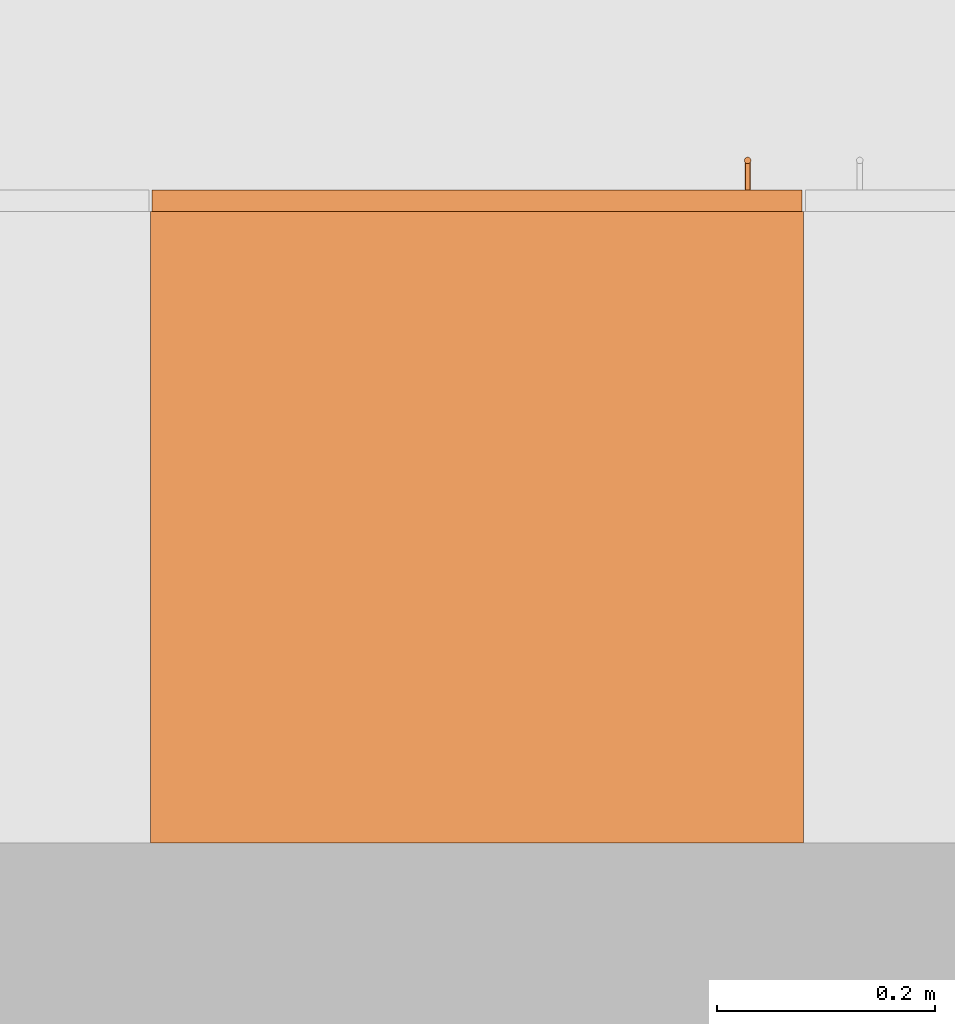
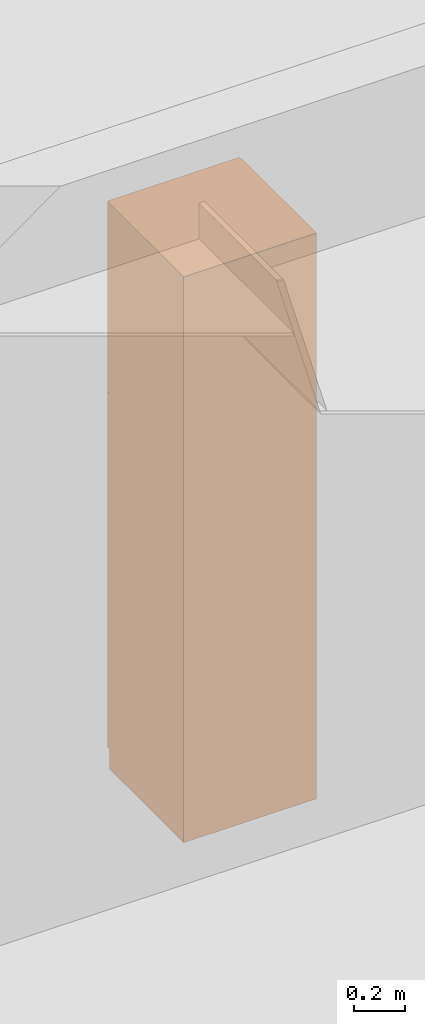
# One storey, part 97 of 167: 1 proxy.
"""IFC2X3 building model written with IfcOpenShell, lengths in millimetres."""

from ifc_helpers import new_model, entity, si_unit, converted_unit, derived_unit, money_unit, direction, frame, origin_with_axes, place, context, subcontext, project, spatial, open_shell, faceted_brep, surface_model, source, transform, mapped, type_object, type_shapes, element, save


model = new_model("IFC2X3")

# Units and contexts
model_context = context("Model", 3, precision=0.01, world=origin_with_axes(), true_north=direction((0.0, 1.0)))
plan_context = context("Plan", 3, precision=0.01, world=origin_with_axes(), true_north=direction((0.0, 1.0)))
body_context = subcontext(model_context, "Body", "Model", "MODEL_VIEW")
ifc_project = project(units=[si_unit("LENGTHUNIT", "METRE", prefix="MILLI"), si_unit("AREAUNIT", "SQUARE_METRE"), si_unit("VOLUMEUNIT", "CUBIC_METRE"), converted_unit("PLANEANGLEUNIT", "DEGREE", entity("IfcPlaneAngleMeasure", 0.0174532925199), si_unit("PLANEANGLEUNIT", "RADIAN"), dimensions=[0, 0, 0, 0, 0, 0, 0]), si_unit("SOLIDANGLEUNIT", "STERADIAN"), money_unit("EUR"), converted_unit("TIMEUNIT", "Year", entity("IfcTimeMeasure", 31556926.0), si_unit("TIMEUNIT", "SECOND"), dimensions=[0, 0, 1, 0, 0, 0, 0]), si_unit("MASSUNIT", "GRAM", prefix="KILO"), si_unit("THERMODYNAMICTEMPERATUREUNIT", "DEGREE_CELSIUS"), si_unit("LUMINOUSINTENSITYUNIT", "LUMEN"), si_unit("ENERGYUNIT", "JOULE", prefix="MEGA"), derived_unit("THERMALCONDUCTANCEUNIT", [(si_unit("POWERUNIT", "WATT"), 1), (si_unit("LENGTHUNIT", "METRE"), -1), (si_unit("THERMODYNAMICTEMPERATUREUNIT", "KELVIN"), -1)]), derived_unit("SPECIFICHEATCAPACITYUNIT", [(si_unit("ENERGYUNIT", "JOULE"), 1), (si_unit("MASSUNIT", "GRAM", prefix="KILO"), -1), (si_unit("THERMODYNAMICTEMPERATUREUNIT", "KELVIN"), -1)]), derived_unit("MASSDENSITYUNIT", [(si_unit("MASSUNIT", "GRAM", prefix="KILO"), 1), (si_unit("VOLUMEUNIT", "CUBIC_METRE"), -1)])], contexts=[model_context, plan_context])

# Site, building, storey
site_placement = place(None, origin_with_axes())
site = spatial("IfcSite", under=ifc_project, at=site_placement, Name="Site", CompositionType="ELEMENT")
building_placement = place(site_placement, origin_with_axes())
building = spatial("IfcBuilding", under=site, at=building_placement, Name="Naam gebouw", CompositionType="ELEMENT")
storey_placement = place(building_placement, origin_with_axes())
storey = spatial("IfcBuildingStorey", under=building, at=storey_placement, Name="Begane grond", CompositionType="ELEMENT", Elevation=0.0)

# Proxy
building_element_proxy_type = type_object("IfcBuildingElementProxyType", Name="Kast hoog 1D 24", PredefinedType="NOTDEFINED")
shared_shape = source(origin_with_axes(), body_context, "Body", "SurfaceModel", [
    faceted_brep([(-20.0, 20.0, 1780.0), (-20.0, 20.0, 1800.0), (-580.0, 20.0, 1800.0), (-580.0, 20.0, 1780.0), (-20.0, 580.0, 1780.0), (-20.0, 580.0, 1800.0), (-580.0, 580.0, 1800.0), (-580.0, 580.0, 1780.0)], [[[0, 1, 2, 3]], [[4, 5, 1, 0]], [[1, 5, 6, 2]], [[3, 2, 6, 7]], [[0, 3, 7, 4]], [[7, 6, 5, 4]]]),
    faceted_brep([(0.0, 20.0, 0.0), (0.0, 20.0, 90.0), (-600.0, 20.0, 90.0), (-600.0, 20.0, 0.0), (0.0, 600.0, 0.0), (0.0, 600.0, 90.0), (-600.0, 600.0, 90.0), (-600.0, 600.0, 0.0)], [[[0, 1, 2, 3]], [[4, 5, 1, 0]], [[1, 5, 6, 2]], [[3, 2, 6, 7]], [[0, 3, 7, 4]], [[7, 6, 5, 4]]]),
    faceted_brep([(0.0, 20.0, 2680.0), (0.0, 20.0, 2700.0), (-20.0, 20.0, 2700.0), (-20.0, 20.0, 2680.0), (0.0, 600.0, 2680.0), (0.0, 600.0, 2700.0), (-20.0, 600.0, 2700.0), (-580.0, 600.0, 2700.0), (-600.0, 600.0, 2700.0), (-600.0, 20.0, 2700.0), (-580.0, 20.0, 2700.0), (-580.0, 20.0, 2680.0), (-600.0, 20.0, 2680.0), (-600.0, 600.0, 2680.0), (-580.0, 600.0, 2680.0), (-20.0, 600.0, 2680.0)], [[[0, 1, 2, 3]], [[4, 5, 1, 0]], [[1, 5, 6, 7, 8, 9, 10, 2]], [[3, 2, 10, 11]], [[0, 3, 11, 12, 13, 14, 15, 4]], [[15, 6, 5, 4]], [[14, 7, 6, 15]], [[13, 8, 7, 14]], [[12, 9, 8, 13]], [[11, 10, 9, 12]]]),
    faceted_brep([(0.0, 20.0, 90.0), (0.0, 20.0, 110.0), (-20.0, 20.0, 110.0), (-20.0, 20.0, 90.0), (0.0, 600.0, 90.0), (0.0, 600.0, 110.0), (-20.0, 600.0, 110.0), (-580.0, 600.0, 110.0), (-600.0, 600.0, 110.0), (-600.0, 20.0, 110.0), (-580.0, 20.0, 110.0), (-580.0, 20.0, 90.0), (-600.0, 20.0, 90.0), (-600.0, 600.0, 90.0), (-580.0, 600.0, 90.0), (-20.0, 600.0, 90.0)], [[[0, 1, 2, 3]], [[4, 5, 1, 0]], [[1, 5, 6, 7, 8, 9, 10, 2]], [[3, 2, 10, 11]], [[0, 3, 11, 12, 13, 14, 15, 4]], [[15, 6, 5, 4]], [[14, 7, 6, 15]], [[13, 8, 7, 14]], [[12, 9, 8, 13]], [[11, 10, 9, 12]]]),
    faceted_brep([(0.0, 20.0, 110.0), (0.0, 20.0, 2680.0), (-20.0, 20.0, 2680.0), (-20.0, 20.0, 110.0), (0.0, 600.0, 110.0), (0.0, 600.0, 2680.0), (-600.0, 600.0, 2680.0), (-600.0, 20.0, 2680.0), (-580.0, 20.0, 2680.0), (-580.0, 580.0, 2680.0), (-20.0, 580.0, 2680.0), (-20.0, 580.0, 110.0), (-580.0, 580.0, 110.0), (-580.0, 20.0, 110.0), (-600.0, 20.0, 110.0), (-600.0, 600.0, 110.0)], [[[0, 1, 2, 3]], [[4, 5, 1, 0]], [[1, 5, 6, 7, 8, 9, 10, 2]], [[3, 2, 10, 11]], [[0, 3, 11, 12, 13, 14, 15, 4]], [[15, 6, 5, 4]], [[14, 7, 6, 15]], [[13, 8, 7, 14]], [[12, 9, 8, 13]], [[11, 10, 9, 12]]]),
    faceted_brep([(-580.0, 20.0, 414.0), (-580.0, 20.0, 434.0), (-580.0, 580.0, 434.0), (-580.0, 580.0, 414.0), (-20.0, 20.0, 414.0), (-20.0, 20.0, 434.0), (-20.0, 580.0, 434.0), (-20.0, 580.0, 414.0)], [[[0, 1, 2, 3]], [[4, 5, 1, 0]], [[1, 5, 6, 2]], [[3, 2, 6, 7]], [[0, 3, 7, 4]], [[7, 6, 5, 4]]]),
    faceted_brep([(-580.0, 20.0, 758.0), (-580.0, 20.0, 778.0), (-580.0, 580.0, 778.0), (-580.0, 580.0, 758.0), (-20.0, 20.0, 758.0), (-20.0, 20.0, 778.0), (-20.0, 580.0, 778.0), (-20.0, 580.0, 758.0)], [[[0, 1, 2, 3]], [[4, 5, 1, 0]], [[1, 5, 6, 2]], [[3, 2, 6, 7]], [[0, 3, 7, 4]], [[7, 6, 5, 4]]]),
    faceted_brep([(-580.0, 20.0, 1102.0), (-580.0, 20.0, 1122.0), (-580.0, 580.0, 1122.0), (-580.0, 580.0, 1102.0), (-20.0, 20.0, 1102.0), (-20.0, 20.0, 1122.0), (-20.0, 580.0, 1122.0), (-20.0, 580.0, 1102.0)], [[[0, 1, 2, 3]], [[4, 5, 1, 0]], [[1, 5, 6, 2]], [[3, 2, 6, 7]], [[0, 3, 7, 4]], [[7, 6, 5, 4]]]),
    faceted_brep([(-580.0, 20.0, 1446.0), (-580.0, 20.0, 1466.0), (-580.0, 580.0, 1466.0), (-580.0, 580.0, 1446.0), (-20.0, 20.0, 1446.0), (-20.0, 20.0, 1466.0), (-20.0, 580.0, 1466.0), (-20.0, 580.0, 1446.0)], [[[0, 1, 2, 3]], [[4, 5, 1, 0]], [[1, 5, 6, 2]], [[3, 2, 6, 7]], [[0, 3, 7, 4]], [[7, 6, 5, 4]]]),
    faceted_brep([(-1.5, 20.0, 91.5), (-1.5, 0.0, 91.5), (-598.5, 0.0, 91.5), (-598.5, 20.0, 91.5), (-1.5, 20.0, 1788.5), (-1.5, 0.0, 1788.5), (-598.5, 0.0, 1788.5), (-598.5, 20.0, 1788.5)], [[[0, 1, 2, 3]], [[4, 5, 1, 0]], [[1, 5, 6, 2]], [[3, 2, 6, 7]], [[0, 3, 7, 4]], [[7, 6, 5, 4]]]),
    faceted_brep([(-551.397777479, -27.7764571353, 891.5), (-551.5, -27.0, 891.5), (-551.397777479, -26.2235428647, 891.5), (-551.098076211, -25.5, 891.5), (-550.621320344, -24.8786796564, 891.5), (-550.0, -24.4019237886, 891.5), (-549.276457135, -24.1022225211, 891.5), (-548.5, -24.0, 891.5), (-547.723542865, -24.1022225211, 891.5), (-547.0, -24.4019237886, 891.5), (-546.378679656, -24.8786796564, 891.5), (-545.901923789, -25.5, 891.5), (-545.602222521, -26.2235428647, 891.5), (-545.5, -27.0, 891.5), (-545.602222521, -27.7764571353, 891.5), (-545.901923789, -28.5, 891.5), (-546.378679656, -29.1213203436, 891.5), (-547.0, -29.5980762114, 891.5), (-547.723542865, -29.8977774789, 891.5), (-548.5, -30.0, 891.5), (-549.276457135, -29.8977774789, 891.5), (-550.0, -29.5980762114, 891.5), (-550.621320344, -29.1213203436, 891.5), (-551.098076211, -28.5, 891.5), (-551.397777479, -27.7764571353, 1141.5), (-551.5, -27.0, 1141.5), (-551.397777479, -26.2235428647, 1141.5), (-551.098076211, -25.5, 1141.5), (-550.621320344, -24.8786796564, 1141.5), (-550.0, -24.4019237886, 1141.5), (-549.276457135, -24.1022225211, 1141.5), (-548.5, -24.0, 1141.5), (-547.723542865, -24.1022225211, 1141.5), (-547.0, -24.4019237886, 1141.5), (-546.378679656, -24.8786796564, 1141.5), (-545.901923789, -25.5, 1141.5), (-545.602222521, -26.2235428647, 1141.5), (-545.5, -27.0, 1141.5), (-545.602222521, -27.7764571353, 1141.5), (-545.901923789, -28.5, 1141.5), (-546.378679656, -29.1213203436, 1141.5), (-547.0, -29.5980762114, 1141.5), (-547.723542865, -29.8977774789, 1141.5), (-548.5, -30.0, 1141.5), (-549.276457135, -29.8977774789, 1141.5), (-550.0, -29.5980762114, 1141.5), (-550.621320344, -29.1213203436, 1141.5), (-551.098076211, -28.5, 1141.5)], [[[0, 1, 2, 3, 4, 5, 6, 7, 8, 9, 10, 11, 12, 13, 14, 15, 16, 17, 18, 19, 20, 21, 22, 23]], [[0, 24, 25, 1]], [[1, 25, 26, 2]], [[2, 26, 27, 3]], [[3, 27, 28, 4]], [[4, 28, 29, 5]], [[5, 29, 30, 6]], [[6, 30, 31, 7]], [[7, 31, 32, 8]], [[8, 32, 33, 9]], [[9, 33, 34, 10]], [[10, 34, 35, 11]], [[11, 35, 36, 12]], [[12, 36, 37, 13]], [[13, 37, 38, 14]], [[14, 38, 39, 15]], [[15, 39, 40, 16]], [[16, 40, 41, 17]], [[17, 41, 42, 18]], [[18, 42, 43, 19]], [[19, 43, 44, 20]], [[20, 44, 45, 21]], [[21, 45, 46, 22]], [[22, 46, 47, 23]], [[23, 47, 24, 0]], [[24, 47, 46, 45, 44, 43, 42, 41, 40, 39, 38, 37, 36, 35, 34, 33, 32, 31, 30, 29, 28, 27, 26, 25]]]),
    surface_model("IfcShellBasedSurfaceModel", [(-549.147047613, -24.070609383, 914.085185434), (-549.147047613, 0.0, 914.085185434), (-548.5, 0.0, 914.0), (-548.5, -24.0, 914.0), (-549.75, -24.2728219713, 914.334936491), (-549.75, 0.0, 914.334936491), (-550.267766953, 0.0, 914.732233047), (-550.665063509, 0.0, 915.25), (-550.914814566, 0.0, 915.852952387), (-551.0, 0.0, 916.5), (-550.914814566, 0.0, 917.147047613), (-550.665063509, 0.0, 917.75), (-550.267766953, 0.0, 918.267766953), (-549.75, 0.0, 918.665063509), (-549.147047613, 0.0, 918.914814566), (-548.5, 0.0, 919.0), (-547.852952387, 0.0, 918.914814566), (-547.25, 0.0, 918.665063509), (-546.732233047, 0.0, 918.267766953), (-546.334936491, 0.0, 917.75), (-546.085185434, 0.0, 917.147047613), (-546.0, 0.0, 916.5), (-546.085185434, 0.0, 915.852952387), (-546.334936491, 0.0, 915.25), (-546.732233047, 0.0, 914.732233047), (-547.25, 0.0, 914.334936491), (-547.852952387, 0.0, 914.085185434), (-547.852952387, -24.070609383, 914.085185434), (-550.267766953, -24.5761600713, 914.732233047), (-550.665063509, -24.9233440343, 915.25), (-550.914814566, -25.2199239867, 915.852952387), (-551.0, -25.3416876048, 916.5), (-550.914814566, -25.2199239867, 917.147047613), (-550.665063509, -24.9233440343, 917.75), (-550.267766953, -24.5761600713, 918.267766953), (-549.75, -24.2728219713, 918.665063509), (-549.147047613, -24.070609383, 918.914814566), (-548.5, -24.0, 919.0), (-547.852952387, -24.070609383, 918.914814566), (-547.25, -24.2728219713, 918.665063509), (-546.732233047, -24.5761600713, 918.267766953), (-546.334936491, -24.9233440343, 917.75), (-546.085185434, -25.2199239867, 917.147047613), (-546.0, -25.3416876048, 916.5), (-546.085185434, -25.2199239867, 915.852952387), (-546.334936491, -24.9233440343, 915.25), (-546.732233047, -24.5761600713, 914.732233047), (-547.25, -24.2728219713, 914.334936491)], [open_shell([[[0, 1, 2, 3]], [[4, 5, 1, 0]], [[1, 5, 6, 7, 8, 9, 10, 11, 12, 13, 14, 15, 16, 17, 18, 19, 20, 21, 22, 23, 24, 25, 26, 2]], [[3, 2, 26, 27]], [[28, 6, 5, 4]], [[29, 7, 6, 28]], [[30, 8, 7, 29]], [[31, 9, 8, 30]], [[32, 10, 9, 31]], [[33, 11, 10, 32]], [[34, 12, 11, 33]], [[35, 13, 12, 34]], [[36, 14, 13, 35]], [[37, 15, 14, 36]], [[38, 16, 15, 37]], [[39, 17, 16, 38]], [[40, 18, 17, 39]], [[41, 19, 18, 40]], [[42, 20, 19, 41]], [[43, 21, 20, 42]], [[44, 22, 21, 43]], [[45, 23, 22, 44]], [[46, 24, 23, 45]], [[47, 25, 24, 46]], [[27, 26, 25, 47]]])]),
    surface_model("IfcShellBasedSurfaceModel", [(-549.147047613, -24.070609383, 1114.08518543), (-549.147047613, 0.0, 1114.08518543), (-548.5, 0.0, 1114.0), (-548.5, -24.0, 1114.0), (-549.75, -24.2728219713, 1114.33493649), (-549.75, 0.0, 1114.33493649), (-550.267766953, 0.0, 1114.73223305), (-550.665063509, 0.0, 1115.25), (-550.914814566, 0.0, 1115.85295239), (-551.0, 0.0, 1116.5), (-550.914814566, 0.0, 1117.14704761), (-550.665063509, 0.0, 1117.75), (-550.267766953, 0.0, 1118.26776695), (-549.75, 0.0, 1118.66506351), (-549.147047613, 0.0, 1118.91481457), (-548.5, 0.0, 1119.0), (-547.852952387, 0.0, 1118.91481457), (-547.25, 0.0, 1118.66506351), (-546.732233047, 0.0, 1118.26776695), (-546.334936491, 0.0, 1117.75), (-546.085185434, 0.0, 1117.14704761), (-546.0, 0.0, 1116.5), (-546.085185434, 0.0, 1115.85295239), (-546.334936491, 0.0, 1115.25), (-546.732233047, 0.0, 1114.73223305), (-547.25, 0.0, 1114.33493649), (-547.852952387, 0.0, 1114.08518543), (-547.852952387, -24.070609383, 1114.08518543), (-550.267766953, -24.5761600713, 1114.73223305), (-550.665063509, -24.9233440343, 1115.25), (-550.914814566, -25.2199239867, 1115.85295239), (-551.0, -25.3416876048, 1116.5), (-550.914814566, -25.2199239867, 1117.14704761), (-550.665063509, -24.9233440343, 1117.75), (-550.267766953, -24.5761600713, 1118.26776695), (-549.75, -24.2728219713, 1118.66506351), (-549.147047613, -24.070609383, 1118.91481457), (-548.5, -24.0, 1119.0), (-547.852952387, -24.070609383, 1118.91481457), (-547.25, -24.2728219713, 1118.66506351), (-546.732233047, -24.5761600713, 1118.26776695), (-546.334936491, -24.9233440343, 1117.75), (-546.085185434, -25.2199239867, 1117.14704761), (-546.0, -25.3416876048, 1116.5), (-546.085185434, -25.2199239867, 1115.85295239), (-546.334936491, -24.9233440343, 1115.25), (-546.732233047, -24.5761600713, 1114.73223305), (-547.25, -24.2728219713, 1114.33493649)], [open_shell([[[0, 1, 2, 3]], [[4, 5, 1, 0]], [[1, 5, 6, 7, 8, 9, 10, 11, 12, 13, 14, 15, 16, 17, 18, 19, 20, 21, 22, 23, 24, 25, 26, 2]], [[3, 2, 26, 27]], [[28, 6, 5, 4]], [[29, 7, 6, 28]], [[30, 8, 7, 29]], [[31, 9, 8, 30]], [[32, 10, 9, 31]], [[33, 11, 10, 32]], [[34, 12, 11, 33]], [[35, 13, 12, 34]], [[36, 14, 13, 35]], [[37, 15, 14, 36]], [[38, 16, 15, 37]], [[39, 17, 16, 38]], [[40, 18, 17, 39]], [[41, 19, 18, 40]], [[42, 20, 19, 41]], [[43, 21, 20, 42]], [[44, 22, 21, 43]], [[45, 23, 22, 44]], [[46, 24, 23, 45]], [[47, 25, 24, 46]], [[27, 26, 25, 47]]])]),
    faceted_brep([(-1.5, 20.0, 1791.5), (-1.5, 0.0, 1791.5), (-598.5, 0.0, 1791.5), (-598.5, 20.0, 1791.5), (-1.5, 20.0, 2698.5), (-1.5, 0.0, 2698.5), (-598.5, 0.0, 2698.5), (-598.5, 20.0, 2698.5)], [[[0, 1, 2, 3]], [[4, 5, 1, 0]], [[1, 5, 6, 2]], [[3, 2, 6, 7]], [[0, 3, 7, 4]], [[7, 6, 5, 4]]]),
    faceted_brep([(-551.397777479, -27.7764571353, 1841.5), (-551.5, -27.0, 1841.5), (-551.397777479, -26.2235428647, 1841.5), (-551.098076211, -25.5, 1841.5), (-550.621320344, -24.8786796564, 1841.5), (-550.0, -24.4019237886, 1841.5), (-549.276457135, -24.1022225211, 1841.5), (-548.5, -24.0, 1841.5), (-547.723542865, -24.1022225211, 1841.5), (-547.0, -24.4019237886, 1841.5), (-546.378679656, -24.8786796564, 1841.5), (-545.901923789, -25.5, 1841.5), (-545.602222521, -26.2235428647, 1841.5), (-545.5, -27.0, 1841.5), (-545.602222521, -27.7764571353, 1841.5), (-545.901923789, -28.5, 1841.5), (-546.378679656, -29.1213203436, 1841.5), (-547.0, -29.5980762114, 1841.5), (-547.723542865, -29.8977774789, 1841.5), (-548.5, -30.0, 1841.5), (-549.276457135, -29.8977774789, 1841.5), (-550.0, -29.5980762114, 1841.5), (-550.621320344, -29.1213203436, 1841.5), (-551.098076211, -28.5, 1841.5), (-551.397777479, -27.7764571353, 2091.5), (-551.5, -27.0, 2091.5), (-551.397777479, -26.2235428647, 2091.5), (-551.098076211, -25.5, 2091.5), (-550.621320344, -24.8786796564, 2091.5), (-550.0, -24.4019237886, 2091.5), (-549.276457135, -24.1022225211, 2091.5), (-548.5, -24.0, 2091.5), (-547.723542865, -24.1022225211, 2091.5), (-547.0, -24.4019237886, 2091.5), (-546.378679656, -24.8786796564, 2091.5), (-545.901923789, -25.5, 2091.5), (-545.602222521, -26.2235428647, 2091.5), (-545.5, -27.0, 2091.5), (-545.602222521, -27.7764571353, 2091.5), (-545.901923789, -28.5, 2091.5), (-546.378679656, -29.1213203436, 2091.5), (-547.0, -29.5980762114, 2091.5), (-547.723542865, -29.8977774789, 2091.5), (-548.5, -30.0, 2091.5), (-549.276457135, -29.8977774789, 2091.5), (-550.0, -29.5980762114, 2091.5), (-550.621320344, -29.1213203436, 2091.5), (-551.098076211, -28.5, 2091.5)], [[[0, 1, 2, 3, 4, 5, 6, 7, 8, 9, 10, 11, 12, 13, 14, 15, 16, 17, 18, 19, 20, 21, 22, 23]], [[0, 24, 25, 1]], [[1, 25, 26, 2]], [[2, 26, 27, 3]], [[3, 27, 28, 4]], [[4, 28, 29, 5]], [[5, 29, 30, 6]], [[6, 30, 31, 7]], [[7, 31, 32, 8]], [[8, 32, 33, 9]], [[9, 33, 34, 10]], [[10, 34, 35, 11]], [[11, 35, 36, 12]], [[12, 36, 37, 13]], [[13, 37, 38, 14]], [[14, 38, 39, 15]], [[15, 39, 40, 16]], [[16, 40, 41, 17]], [[17, 41, 42, 18]], [[18, 42, 43, 19]], [[19, 43, 44, 20]], [[20, 44, 45, 21]], [[21, 45, 46, 22]], [[22, 46, 47, 23]], [[23, 47, 24, 0]], [[24, 47, 46, 45, 44, 43, 42, 41, 40, 39, 38, 37, 36, 35, 34, 33, 32, 31, 30, 29, 28, 27, 26, 25]]]),
    surface_model("IfcShellBasedSurfaceModel", [(-549.147047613, -24.070609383, 1864.08518543), (-549.147047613, 0.0, 1864.08518543), (-548.5, 0.0, 1864.0), (-548.5, -24.0, 1864.0), (-549.75, -24.2728219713, 1864.33493649), (-549.75, 0.0, 1864.33493649), (-550.267766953, 0.0, 1864.73223305), (-550.665063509, 0.0, 1865.25), (-550.914814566, 0.0, 1865.85295239), (-551.0, 0.0, 1866.5), (-550.914814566, 0.0, 1867.14704761), (-550.665063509, 0.0, 1867.75), (-550.267766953, 0.0, 1868.26776695), (-549.75, 0.0, 1868.66506351), (-549.147047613, 0.0, 1868.91481457), (-548.5, 0.0, 1869.0), (-547.852952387, 0.0, 1868.91481457), (-547.25, 0.0, 1868.66506351), (-546.732233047, 0.0, 1868.26776695), (-546.334936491, 0.0, 1867.75), (-546.085185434, 0.0, 1867.14704761), (-546.0, 0.0, 1866.5), (-546.085185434, 0.0, 1865.85295239), (-546.334936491, 0.0, 1865.25), (-546.732233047, 0.0, 1864.73223305), (-547.25, 0.0, 1864.33493649), (-547.852952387, 0.0, 1864.08518543), (-547.852952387, -24.070609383, 1864.08518543), (-550.267766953, -24.5761600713, 1864.73223305), (-550.665063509, -24.9233440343, 1865.25), (-550.914814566, -25.2199239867, 1865.85295239), (-551.0, -25.3416876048, 1866.5), (-550.914814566, -25.2199239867, 1867.14704761), (-550.665063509, -24.9233440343, 1867.75), (-550.267766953, -24.5761600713, 1868.26776695), (-549.75, -24.2728219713, 1868.66506351), (-549.147047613, -24.070609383, 1868.91481457), (-548.5, -24.0, 1869.0), (-547.852952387, -24.070609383, 1868.91481457), (-547.25, -24.2728219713, 1868.66506351), (-546.732233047, -24.5761600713, 1868.26776695), (-546.334936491, -24.9233440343, 1867.75), (-546.085185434, -25.2199239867, 1867.14704761), (-546.0, -25.3416876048, 1866.5), (-546.085185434, -25.2199239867, 1865.85295239), (-546.334936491, -24.9233440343, 1865.25), (-546.732233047, -24.5761600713, 1864.73223305), (-547.25, -24.2728219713, 1864.33493649)], [open_shell([[[0, 1, 2, 3]], [[4, 5, 1, 0]], [[1, 5, 6, 7, 8, 9, 10, 11, 12, 13, 14, 15, 16, 17, 18, 19, 20, 21, 22, 23, 24, 25, 26, 2]], [[3, 2, 26, 27]], [[28, 6, 5, 4]], [[29, 7, 6, 28]], [[30, 8, 7, 29]], [[31, 9, 8, 30]], [[32, 10, 9, 31]], [[33, 11, 10, 32]], [[34, 12, 11, 33]], [[35, 13, 12, 34]], [[36, 14, 13, 35]], [[37, 15, 14, 36]], [[38, 16, 15, 37]], [[39, 17, 16, 38]], [[40, 18, 17, 39]], [[41, 19, 18, 40]], [[42, 20, 19, 41]], [[43, 21, 20, 42]], [[44, 22, 21, 43]], [[45, 23, 22, 44]], [[46, 24, 23, 45]], [[47, 25, 24, 46]], [[27, 26, 25, 47]]])]),
    surface_model("IfcShellBasedSurfaceModel", [(-549.147047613, -24.070609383, 2064.08518543), (-549.147047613, 0.0, 2064.08518543), (-548.5, 0.0, 2064.0), (-548.5, -24.0, 2064.0), (-549.75, -24.2728219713, 2064.33493649), (-549.75, 0.0, 2064.33493649), (-550.267766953, 0.0, 2064.73223305), (-550.665063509, 0.0, 2065.25), (-550.914814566, 0.0, 2065.85295239), (-551.0, 0.0, 2066.5), (-550.914814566, 0.0, 2067.14704761), (-550.665063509, 0.0, 2067.75), (-550.267766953, 0.0, 2068.26776695), (-549.75, 0.0, 2068.66506351), (-549.147047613, 0.0, 2068.91481457), (-548.5, 0.0, 2069.0), (-547.852952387, 0.0, 2068.91481457), (-547.25, 0.0, 2068.66506351), (-546.732233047, 0.0, 2068.26776695), (-546.334936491, 0.0, 2067.75), (-546.085185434, 0.0, 2067.14704761), (-546.0, 0.0, 2066.5), (-546.085185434, 0.0, 2065.85295239), (-546.334936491, 0.0, 2065.25), (-546.732233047, 0.0, 2064.73223305), (-547.25, 0.0, 2064.33493649), (-547.852952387, 0.0, 2064.08518543), (-547.852952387, -24.070609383, 2064.08518543), (-550.267766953, -24.5761600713, 2064.73223305), (-550.665063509, -24.9233440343, 2065.25), (-550.914814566, -25.2199239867, 2065.85295239), (-551.0, -25.3416876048, 2066.5), (-550.914814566, -25.2199239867, 2067.14704761), (-550.665063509, -24.9233440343, 2067.75), (-550.267766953, -24.5761600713, 2068.26776695), (-549.75, -24.2728219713, 2068.66506351), (-549.147047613, -24.070609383, 2068.91481457), (-548.5, -24.0, 2069.0), (-547.852952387, -24.070609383, 2068.91481457), (-547.25, -24.2728219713, 2068.66506351), (-546.732233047, -24.5761600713, 2068.26776695), (-546.334936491, -24.9233440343, 2067.75), (-546.085185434, -25.2199239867, 2067.14704761), (-546.0, -25.3416876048, 2066.5), (-546.085185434, -25.2199239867, 2065.85295239), (-546.334936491, -24.9233440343, 2065.25), (-546.732233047, -24.5761600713, 2064.73223305), (-547.25, -24.2728219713, 2064.33493649)], [open_shell([[[0, 1, 2, 3]], [[4, 5, 1, 0]], [[1, 5, 6, 7, 8, 9, 10, 11, 12, 13, 14, 15, 16, 17, 18, 19, 20, 21, 22, 23, 24, 25, 26, 2]], [[3, 2, 26, 27]], [[28, 6, 5, 4]], [[29, 7, 6, 28]], [[30, 8, 7, 29]], [[31, 9, 8, 30]], [[32, 10, 9, 31]], [[33, 11, 10, 32]], [[34, 12, 11, 33]], [[35, 13, 12, 34]], [[36, 14, 13, 35]], [[37, 15, 14, 36]], [[38, 16, 15, 37]], [[39, 17, 16, 38]], [[40, 18, 17, 39]], [[41, 19, 18, 40]], [[42, 20, 19, 41]], [[43, 21, 20, 42]], [[44, 22, 21, 43]], [[45, 23, 22, 44]], [[46, 24, 23, 45]], [[47, 25, 24, 46]], [[27, 26, 25, 47]]])]),
])
type_shapes(building_element_proxy_type, [shared_shape])
proxy_placement = place(storey_placement, frame((5200.0, 36725.0, 0.0), z_axis=(0.0, 0.0, 1.0), x_axis=(-1.0, 0.0, 0.0)))
element("IfcBuildingElementProxy", 1, at=proxy_placement, inside=storey, type_object=building_element_proxy_type, Name="__Object-x", context=body_context, shape_type="MappedRepresentation", body=[
    mapped(shared_shape, transform((0.0, 0.0, 0.0))),
])

save(model, "model.ifc")
